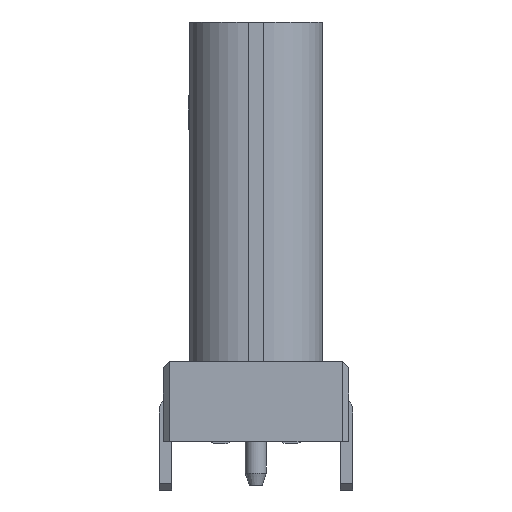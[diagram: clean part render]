
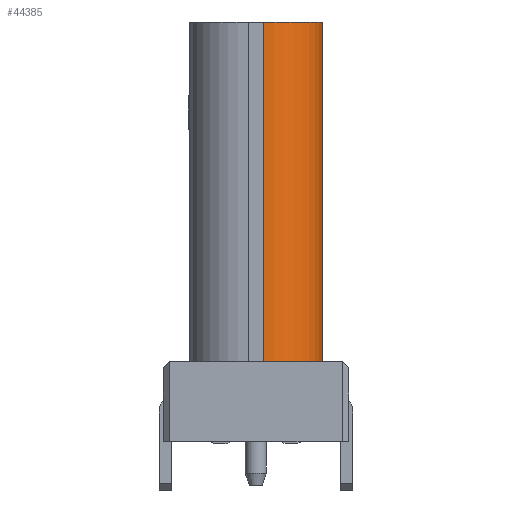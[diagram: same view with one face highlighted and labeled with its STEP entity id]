
A CAD part, left-side view. The second image highlights one B-rep face of the part: STEP entity #44385.
In plain terms, the highlighted cylindrical face has radius 1.4 mm (diameter 2.8 mm), a partial arc.
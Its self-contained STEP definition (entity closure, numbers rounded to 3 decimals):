
#247 = VECTOR ( 'NONE', #4978, 1000. ) ;
#273 = VERTEX_POINT ( 'NONE', #42315 ) ;
#4978 = DIRECTION ( 'NONE',  ( 0., 0., -1. ) ) ;
#5008 = CIRCLE ( 'NONE', #16719, 1.4 ) ;
#5299 = VERTEX_POINT ( 'NONE', #62064 ) ;
#10819 = EDGE_LOOP ( 'NONE', ( #42316, #28625, #35037, #51936 ) ) ;
#11921 = CYLINDRICAL_SURFACE ( 'NONE', #34530, 1.4 ) ;
#12555 = DIRECTION ( 'NONE',  ( 0., 0., 1. ) ) ;
#13968 = EDGE_CURVE ( 'NONE', #53982, #41222, #37902, .T. ) ;
#15316 = CARTESIAN_POINT ( 'NONE',  ( -64.47, -2.231, -45.273 ) ) ;
#15965 = DIRECTION ( 'NONE',  ( -1., 0., 0. ) ) ;
#16719 = AXIS2_PLACEMENT_3D ( 'NONE', #15316, #41324, #15965 ) ;
#17687 = CARTESIAN_POINT ( 'NONE',  ( -64.47, -2.231, -37.223 ) ) ;
#17805 = CARTESIAN_POINT ( 'NONE',  ( -65.87, -2.231, -37.223 ) ) ;
#18587 = DIRECTION ( 'NONE',  ( 1., 0., 0. ) ) ;
#19164 = EDGE_CURVE ( 'NONE', #41222, #273, #29003, .T. ) ;
#19191 = EDGE_CURVE ( 'NONE', #273, #5299, #65943, .T. ) ;
#19194 = VECTOR ( 'NONE', #12555, 1000. ) ;
#21933 = FACE_OUTER_BOUND ( 'NONE', #10819, .T. ) ;
#23338 = DIRECTION ( 'NONE',  ( -1., 0., 0. ) ) ;
#28625 = ORIENTED_EDGE ( 'NONE', *, *, #30930, .T. ) ;
#29003 = CIRCLE ( 'NONE', #56674, 1.4 ) ;
#30930 = EDGE_CURVE ( 'NONE', #53982, #5299, #5008, .T. ) ;
#34530 = AXIS2_PLACEMENT_3D ( 'NONE', #52593, #39570, #18587 ) ;
#34655 = CARTESIAN_POINT ( 'NONE',  ( -64.47, -3.631, -37.223 ) ) ;
#35037 = ORIENTED_EDGE ( 'NONE', *, *, #19191, .F. ) ;
#37902 = LINE ( 'NONE', #48885, #19194 ) ;
#39570 = DIRECTION ( 'NONE',  ( 0., 0., 1. ) ) ;
#41222 = VERTEX_POINT ( 'NONE', #17805 ) ;
#41324 = DIRECTION ( 'NONE',  ( 0., 0., 1. ) ) ;
#42315 = CARTESIAN_POINT ( 'NONE',  ( -64.47, -3.631, -37.223 ) ) ;
#42316 = ORIENTED_EDGE ( 'NONE', *, *, #13968, .F. ) ;
#44385 = ADVANCED_FACE ( 'NONE', ( #21933 ), #11921, .T. ) ;
#48885 = CARTESIAN_POINT ( 'NONE',  ( -65.87, -2.231, -45.273 ) ) ;
#49397 = CARTESIAN_POINT ( 'NONE',  ( -65.87, -2.231, -45.273 ) ) ;
#51936 = ORIENTED_EDGE ( 'NONE', *, *, #19164, .F. ) ;
#52593 = CARTESIAN_POINT ( 'NONE',  ( -64.47, -2.231, -45.42 ) ) ;
#53982 = VERTEX_POINT ( 'NONE', #49397 ) ;
#56674 = AXIS2_PLACEMENT_3D ( 'NONE', #17687, #58331, #23338 ) ;
#58331 = DIRECTION ( 'NONE',  ( 0., 0., 1. ) ) ;
#62064 = CARTESIAN_POINT ( 'NONE',  ( -64.47, -3.631, -45.273 ) ) ;
#65943 = LINE ( 'NONE', #34655, #247 ) ;
